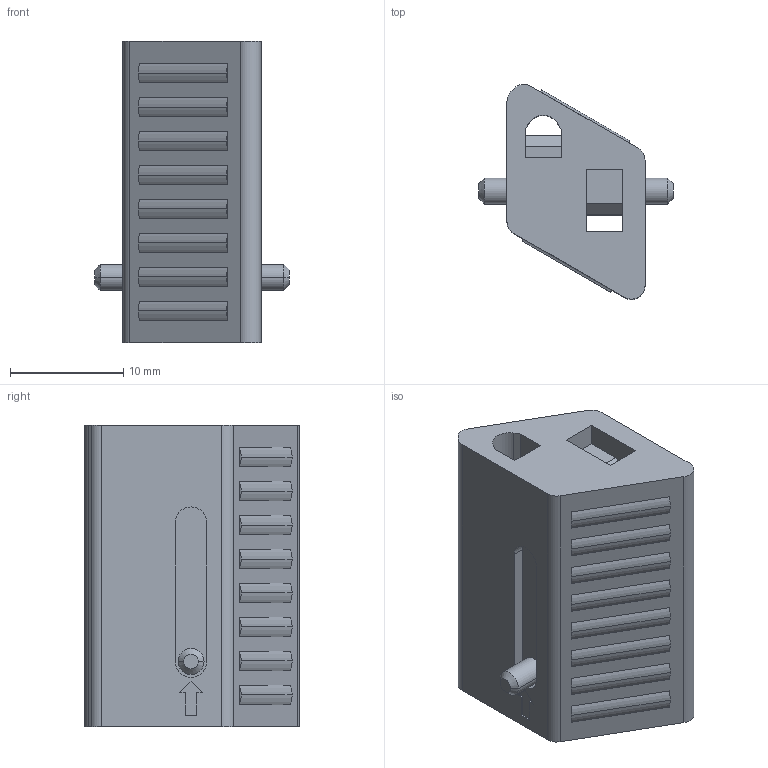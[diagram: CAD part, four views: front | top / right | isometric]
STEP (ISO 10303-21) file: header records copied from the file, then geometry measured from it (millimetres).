
FILE_DESCRIPTION (( 'STEP AP214' ), '1' );
FILE_NAME ('IYP-20R.STEP', '2020-02-27T09:21:18', ( '' ), ( '' ), 'SwSTEP 2.0', 'SolidWorks 2019', '' );
FILE_SCHEMA (( 'AUTOMOTIVE_DESIGN' ));
Length unit declared in the file: millimetre
Products named in the file (1): IYP-20R
Bounding box: 17.2 x 18.97 x 26.6 mm (x, y, z)
Volume: 4074.6 mm3; surface area: 2350 mm2
Topology: 1 solids, 1 shells, 126 faces, 302 edges, 200 vertices
Faces by surface type: plane 84, cylinder 38, cone 4
Entity records: 3696 total; most frequent: DIRECTION 636, CARTESIAN_POINT 629, ORIENTED_EDGE 604, EDGE_CURVE 302, VECTOR 222, LINE 222, AXIS2_PLACEMENT_3D 207, VERTEX_POINT 200
